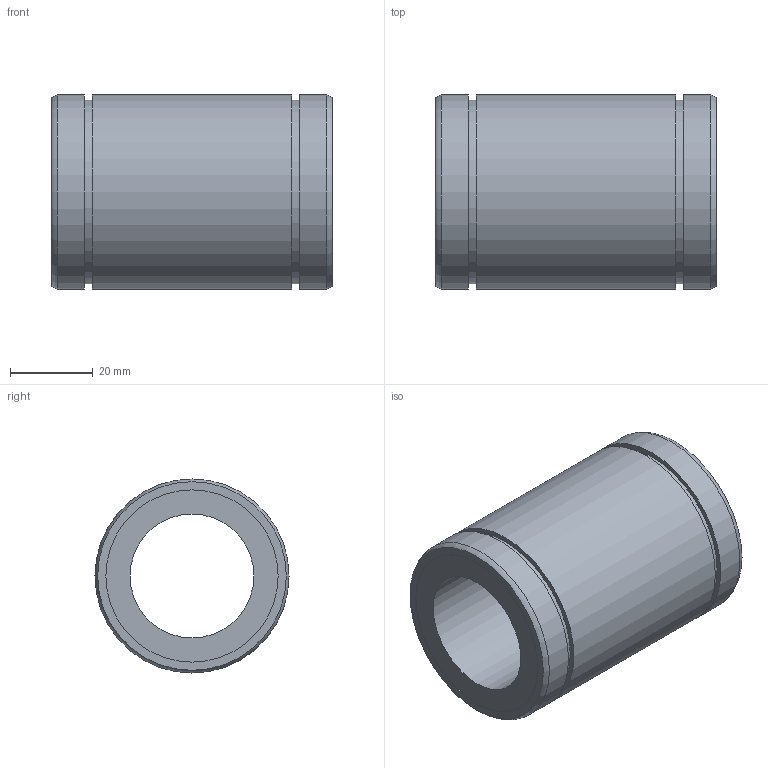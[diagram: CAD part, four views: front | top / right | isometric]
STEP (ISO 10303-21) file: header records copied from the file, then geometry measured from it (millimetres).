
FILE_DESCRIPTION((''),'2;1');
FILE_NAME('D:\製品 (図面)\カタログ用3D\リニアベアリング関連\STEP形式\LE\LE30.stp','2010-06-03T09:05:54',('Tsuchiya'),(''),'Autodesk Inventor 10','Autodesk Inventor 10','');
FILE_SCHEMA(('AUTOMOTIVE_DESIGN { 1 0 10303 214 1 1 1 1 }'));
Length unit declared in the file: millimetre
Products named in the file (1): LE30
Bounding box: 68 x 47 x 47 mm (x, y, z)
Volume: 68997.2 mm3; surface area: 19048.7 mm2
Topology: 1 solids, 1 shells, 18 faces, 28 edges, 18 vertices
Faces by surface type: plane 8, cylinder 8, torus 2
Full cylindrical faces by diameter (mm): 30 x1, 41.7 x2, 44.5 x2, 47 x3
Entity records: 391 total; most frequent: DIRECTION 74, CARTESIAN_POINT 55, AXIS2_PLACEMENT_3D 37, ORIENTED_EDGE 36, EDGE_LOOP 36, VERTEX_POINT 18, CIRCLE 18, EDGE_CURVE 18
